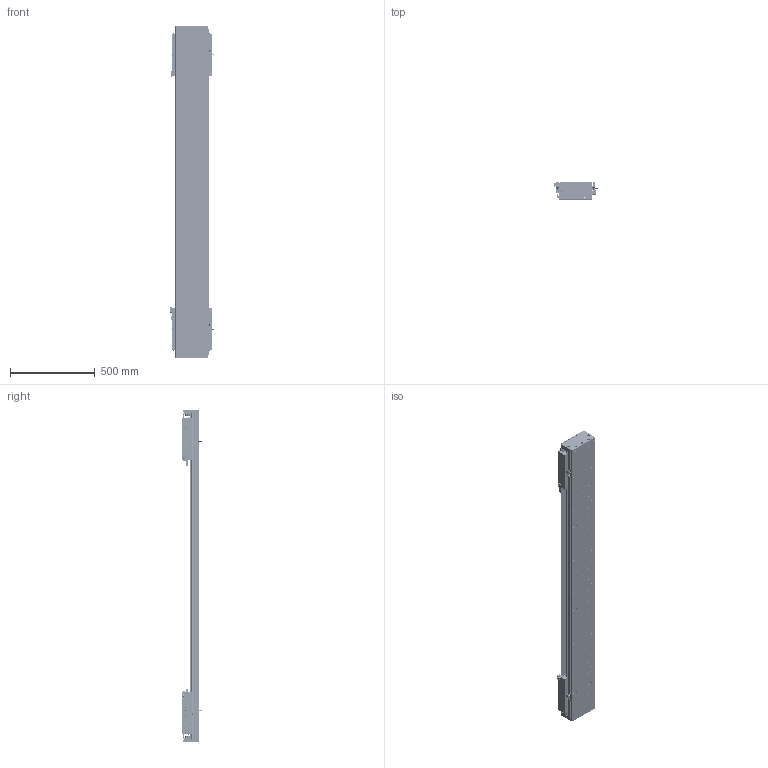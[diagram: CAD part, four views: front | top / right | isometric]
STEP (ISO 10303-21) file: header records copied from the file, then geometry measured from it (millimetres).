
FILE_DESCRIPTION (( 'STEP AP203' ), '1' );
FILE_NAME ('DA-C195-2-C3-T1340-C010-0.2 眻盄萇儂.STEP', '2025-08-15T00:40:48', ( '' ), ( '' ), 'SwSTEP 2.0', 'SolidWorks 2019', '' );
FILE_SCHEMA (( 'CONFIG_CONTROL_DESIGN' ));
Length unit declared in the file: millimetre
Products named in the file (19): CU195-C3賑輸-俋楷; IU-CU195-L 菁釱絳寢; DA165-GYP-00 光电感应片(默认); LMT黍杅芛; PM-T45ㄗ侂狟ㄘ; PM-Y65嫖萇羲壽郪璃; DKW168-HXJ-ZJ-00 笢潔滅袉砎蝶; DKW-KGZ-ZJ-00 中间光电开关支架; DA195詩湍裔啣; MS200 棠掑喜S315-T240; DA-C195-2-C3-T1340-C010-0.2 眻盄萇儂; DKW-GYP-ZJ-00 笢潔嫖萇覜茼え; DA195詩湍嶺輸; DA195詩湍菜輸; DA195詩湍郪璃; IU-CU195-L-00 菁釱(L1920); DA-C195-GD-DB-H-00 傷啣; 葩璃 DA95-GT-T-00; DA95-HXJ-00 遣喳砎蝶
Assembly tree (37 placements, depth 3):
  DA-C195-2-C3-T1340-C010-0.2 眻盄萇儂
    DA195詩湍郪璃
      DA195詩湍菜輸  x2
      DA195詩湍裔啣
      DA195詩湍嶺輸  x2
      DA95-HXJ-00 遣喳砎蝶  x8
      DA-C195-GD-DB-H-00 傷啣  x2
    IU-CU195-L 菁釱絳寢
      IU-CU195-L-00 菁釱(L1920)
      葩璃 DA95-GT-T-00  x4
    LMT黍杅芛  x2
    MS200 棠掑喜S315-T240
    PM-T45ㄗ侂狟ㄘ  x4
    DA165-GYP-00 光电感应片(默认)  x2
    PM-Y65嫖萇羲壽郪璃
    DKW168-HXJ-ZJ-00 笢潔滅袉砎蝶
    DKW-GYP-ZJ-00 笢潔嫖萇覜茼え
    DKW-KGZ-ZJ-00 中间光电开关支架
    CU195-C3賑輸-俋楷  x2
Bounding box: 258.2 x 115.45 x 1960 mm (x, y, z)
Volume: 13702261.7 mm3; surface area: 3850823.3 mm2
Topology: 154 solids, 218 shells, 6609 faces, 17343 edges, 10757 vertices
Faces by surface type: cylinder 3018, plane 2539, cone 884, torus 88, sphere 72, bspline 8
Entity records: 135051 total; most frequent: CARTESIAN_POINT 34125, ORIENTED_EDGE 20702, DIRECTION 20320, EDGE_CURVE 10351, AXIS2_PLACEMENT_3D 7453, VERTEX_POINT 6682, VECTOR 5414, LINE 5414
